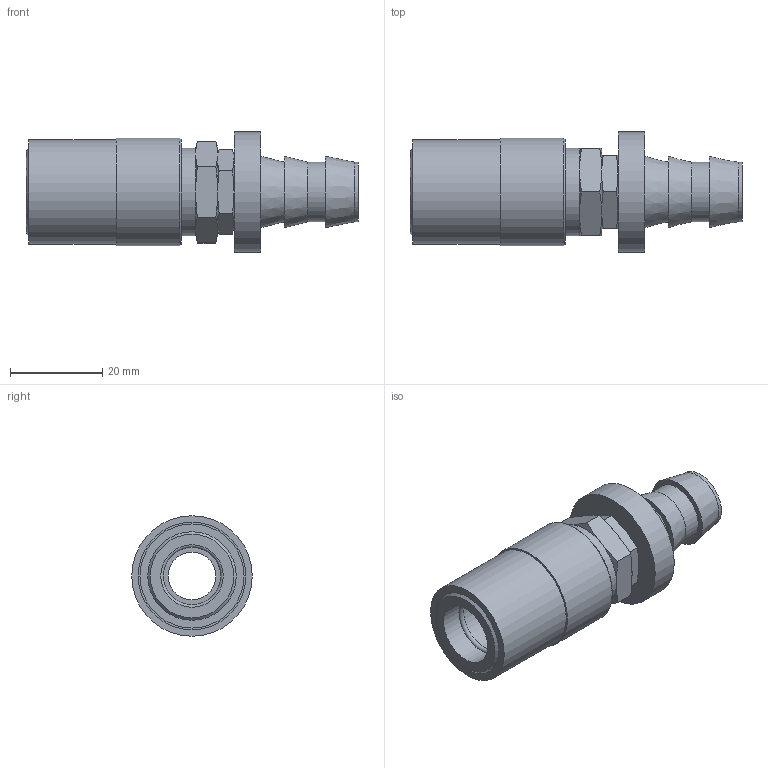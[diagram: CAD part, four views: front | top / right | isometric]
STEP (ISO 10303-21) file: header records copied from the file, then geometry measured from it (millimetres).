
FILE_DESCRIPTION(/* description */ ('STEP AP214'),/* implementation_level */ '2;1');
FILE_NAME(/* name */ 'JSL0308-SV',/* time_stamp */ '2024-12-19T09:17:37+01:00',/* author */ ('License CC BY-ND 4.0'),/* organization */ ('CADENAS'),/* preprocessor_version */ 'ST-DEVELOPER v19.3',/* originating_system */ 'PARTsolutions',/* authorisation */ ' ');
FILE_SCHEMA (('AUTOMOTIVE_DESIGN {1 0 10303 214 3 1 1}'));
Length unit declared in the file: inch
Products named in the file (1): JSL0308-SV
Bounding box: 72.1 x 26.16 x 26.16 mm (x, y, z)
Volume: 16365.2 mm3; surface area: 8536.2 mm2
Topology: 1 solids, 1 shells, 68 faces, 142 edges, 85 vertices
Faces by surface type: cone 29, plane 27, cylinder 11, torus 1
Full cylindrical faces by diameter (mm): 10.363 x1, 12.954 x2, 13.564 x2, 19.05 x1, 22.606 x1, 23.368 x1, 26.162 x1
Entity records: 1794 total; most frequent: CARTESIAN_POINT 447, DIRECTION 260, ORIENTED_EDGE 252, EDGE_CURVE 126, AXIS2_PLACEMENT_3D 121, EDGE_LOOP 94, FACE_BOUND 94, VERTEX_POINT 84
